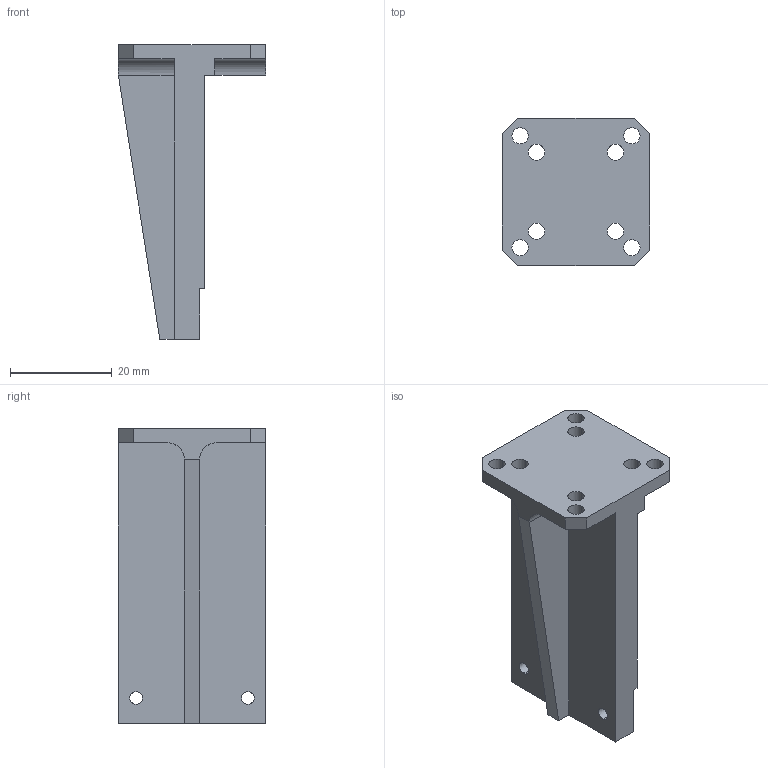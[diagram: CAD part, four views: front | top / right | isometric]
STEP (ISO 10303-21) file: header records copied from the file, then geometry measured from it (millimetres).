
FILE_DESCRIPTION (( 'STEP AP203' ), '1' );
FILE_NAME ('VH1104-Vertikalhalter-kurz.STEP', '2014-07-31T07:36:45', ( '' ), ( '' ), 'SwSTEP 2.0', 'SolidWorks 2014', '' );
FILE_SCHEMA (( 'CONFIG_CONTROL_DESIGN' ));
Length unit declared in the file: millimetre
Products named in the file (1): VH1104-Vertikalhalter-kurz
Bounding box: 29 x 29 x 58 mm (x, y, z)
Volume: 12973 mm3; surface area: 6734.8 mm2
Topology: 1 solids, 1 shells, 49 faces, 141 edges, 94 vertices
Faces by surface type: plane 25, cylinder 24
Entity records: 1740 total; most frequent: CARTESIAN_POINT 291, DIRECTION 287, ORIENTED_EDGE 282, EDGE_CURVE 141, AXIS2_PLACEMENT_3D 98, VERTEX_POINT 94, LINE 91, VECTOR 91
